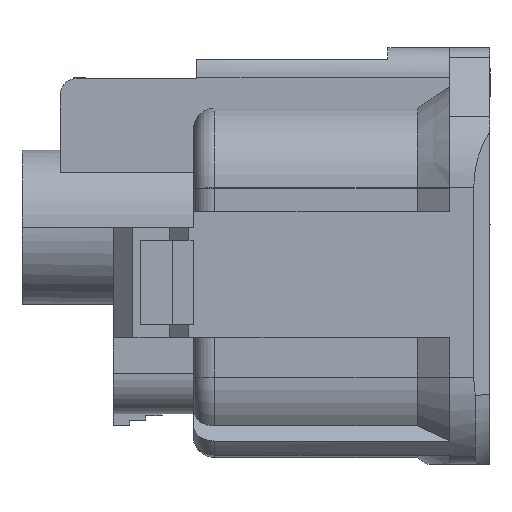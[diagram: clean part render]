
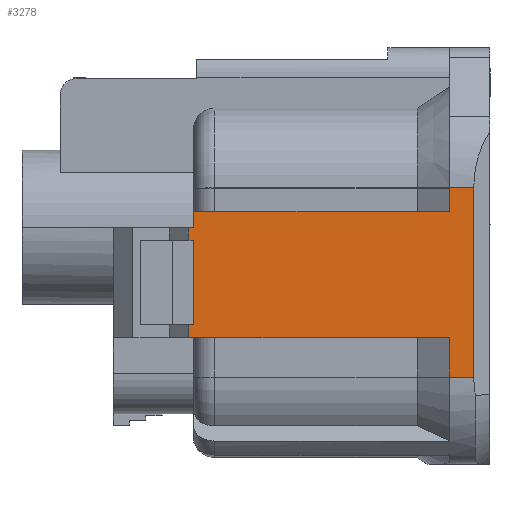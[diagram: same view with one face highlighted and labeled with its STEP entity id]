
A CAD part, front view. The second image highlights one B-rep face of the part: STEP entity #3278.
In plain terms, the highlighted planar face has unit normal (0, -1, 0).
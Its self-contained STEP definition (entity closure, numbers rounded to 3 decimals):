
#3108=AXIS2_PLACEMENT_3D('Circle Axis2P3D',#3106,#3107,$) ;
#3115=AXIS2_PLACEMENT_3D('Circle Axis2P3D',#3113,#3114,$) ;
#3122=AXIS2_PLACEMENT_3D('Circle Axis2P3D',#3120,#3121,$) ;
#3161=AXIS2_PLACEMENT_3D('Plane Axis2P3D',#3158,#3159,#3160) ;
#2400=CARTESIAN_POINT('Vertex',(-2.5,-12.9,13.027)) ;
#2403=CARTESIAN_POINT('Line Origine',(-9.3,-12.9,13.027)) ;
#2407=CARTESIAN_POINT('Vertex',(-1.,-12.9,13.027)) ;
#3016=CARTESIAN_POINT('Vertex',(-1.,-12.9,1.275)) ;
#3019=CARTESIAN_POINT('Line Origine',(-9.3,-12.9,1.275)) ;
#3023=CARTESIAN_POINT('Vertex',(-2.5,-12.9,1.275)) ;
#3103=CARTESIAN_POINT('Vertex',(-2.5,-12.9,12.975)) ;
#3106=CARTESIAN_POINT('Axis2P3D Location',(-2.5,-6.6,12.975)) ;
#3110=CARTESIAN_POINT('Vertex',(-2.5,-12.9,12.99)) ;
#3113=CARTESIAN_POINT('Axis2P3D Location',(-2.5,-6.6,12.975)) ;
#3117=CARTESIAN_POINT('Vertex',(-2.5,-12.9,13.015)) ;
#3120=CARTESIAN_POINT('Axis2P3D Location',(-2.5,-6.6,12.975)) ;
#3158=CARTESIAN_POINT('Axis2P3D Location',(0.,-12.9,15.5)) ;
#3163=CARTESIAN_POINT('Line Origine',(-1.,-12.9,7.151)) ;
#3168=CARTESIAN_POINT('Line Origine',(-2.5,-12.9,12.962)) ;
#3172=CARTESIAN_POINT('Vertex',(-2.5,-12.9,12.95)) ;
#3175=CARTESIAN_POINT('Line Origine',(-2.5,-12.9,12.237)) ;
#3179=CARTESIAN_POINT('Vertex',(-2.5,-12.9,11.525)) ;
#3182=CARTESIAN_POINT('Line Origine',(-10.4,-12.9,11.525)) ;
#3186=CARTESIAN_POINT('Vertex',(-18.3,-12.9,11.525)) ;
#3189=CARTESIAN_POINT('Line Origine',(-18.3,-12.9,11.025)) ;
#3193=CARTESIAN_POINT('Vertex',(-18.3,-12.9,10.525)) ;
#3196=CARTESIAN_POINT('Line Origine',(-18.45,-12.9,10.525)) ;
#3200=CARTESIAN_POINT('Vertex',(-18.6,-12.9,10.525)) ;
#3203=CARTESIAN_POINT('Line Origine',(-18.6,-12.9,10.125)) ;
#3207=CARTESIAN_POINT('Vertex',(-18.6,-12.9,9.725)) ;
#3210=CARTESIAN_POINT('Line Origine',(-18.45,-12.9,9.725)) ;
#3214=CARTESIAN_POINT('Vertex',(-18.3,-12.9,9.725)) ;
#3217=CARTESIAN_POINT('Line Origine',(-18.3,-12.9,7.125)) ;
#3221=CARTESIAN_POINT('Vertex',(-18.3,-12.9,4.525)) ;
#3224=CARTESIAN_POINT('Line Origine',(-18.45,-12.9,4.525)) ;
#3228=CARTESIAN_POINT('Vertex',(-18.6,-12.9,4.525)) ;
#3231=CARTESIAN_POINT('Line Origine',(-18.6,-12.9,4.125)) ;
#3235=CARTESIAN_POINT('Vertex',(-18.6,-12.9,3.725)) ;
#3238=CARTESIAN_POINT('Line Origine',(-10.55,-12.9,3.725)) ;
#3242=CARTESIAN_POINT('Vertex',(-2.5,-12.9,3.725)) ;
#3245=CARTESIAN_POINT('Line Origine',(-2.5,-12.9,2.513)) ;
#3249=CARTESIAN_POINT('Vertex',(-2.5,-12.9,1.3)) ;
#3252=CARTESIAN_POINT('Line Origine',(-2.5,-12.9,1.288)) ;
#2404=DIRECTION('Vector Direction',(-1.,0.,0.)) ;
#3020=DIRECTION('Vector Direction',(-1.,0.,0.)) ;
#3107=DIRECTION('Axis2P3D Direction',(1.,0.,0.)) ;
#3114=DIRECTION('Axis2P3D Direction',(1.,0.,0.)) ;
#3121=DIRECTION('Axis2P3D Direction',(1.,0.,0.)) ;
#3159=DIRECTION('Axis2P3D Direction',(0.,1.,0.)) ;
#3160=DIRECTION('Axis2P3D XDirection',(0.,0.,-1.)) ;
#3164=DIRECTION('Vector Direction',(0.,0.,-1.)) ;
#3169=DIRECTION('Vector Direction',(0.,0.,-1.)) ;
#3176=DIRECTION('Vector Direction',(0.,0.,-1.)) ;
#3183=DIRECTION('Vector Direction',(1.,0.,0.)) ;
#3190=DIRECTION('Vector Direction',(0.,0.,1.)) ;
#3197=DIRECTION('Vector Direction',(1.,0.,0.)) ;
#3204=DIRECTION('Vector Direction',(0.,0.,-1.)) ;
#3211=DIRECTION('Vector Direction',(1.,0.,0.)) ;
#3218=DIRECTION('Vector Direction',(0.,0.,-1.)) ;
#3225=DIRECTION('Vector Direction',(1.,0.,0.)) ;
#3232=DIRECTION('Vector Direction',(0.,0.,-1.)) ;
#3239=DIRECTION('Vector Direction',(-1.,0.,0.)) ;
#3246=DIRECTION('Vector Direction',(0.,0.,1.)) ;
#3253=DIRECTION('Vector Direction',(0.,0.,1.)) ;
#2405=VECTOR('Line Direction',#2404,1.) ;
#3021=VECTOR('Line Direction',#3020,1.) ;
#3165=VECTOR('Line Direction',#3164,1.) ;
#3170=VECTOR('Line Direction',#3169,1.) ;
#3177=VECTOR('Line Direction',#3176,1.) ;
#3184=VECTOR('Line Direction',#3183,1.) ;
#3191=VECTOR('Line Direction',#3190,1.) ;
#3198=VECTOR('Line Direction',#3197,1.) ;
#3205=VECTOR('Line Direction',#3204,1.) ;
#3212=VECTOR('Line Direction',#3211,1.) ;
#3219=VECTOR('Line Direction',#3218,1.) ;
#3226=VECTOR('Line Direction',#3225,1.) ;
#3233=VECTOR('Line Direction',#3232,1.) ;
#3240=VECTOR('Line Direction',#3239,1.) ;
#3247=VECTOR('Line Direction',#3246,1.) ;
#3254=VECTOR('Line Direction',#3253,1.) ;
#3258=ORIENTED_EDGE('',*,*,#3167,.F.) ;
#3259=ORIENTED_EDGE('',*,*,#2409,.T.) ;
#3260=ORIENTED_EDGE('',*,*,#3124,.F.) ;
#3261=ORIENTED_EDGE('',*,*,#3119,.F.) ;
#3262=ORIENTED_EDGE('',*,*,#3112,.F.) ;
#3263=ORIENTED_EDGE('',*,*,#3174,.T.) ;
#3264=ORIENTED_EDGE('',*,*,#3181,.F.) ;
#3265=ORIENTED_EDGE('',*,*,#3188,.F.) ;
#3266=ORIENTED_EDGE('',*,*,#3195,.F.) ;
#3267=ORIENTED_EDGE('',*,*,#3202,.F.) ;
#3268=ORIENTED_EDGE('',*,*,#3209,.F.) ;
#3269=ORIENTED_EDGE('',*,*,#3216,.T.) ;
#3270=ORIENTED_EDGE('',*,*,#3223,.T.) ;
#3271=ORIENTED_EDGE('',*,*,#3230,.F.) ;
#3272=ORIENTED_EDGE('',*,*,#3237,.F.) ;
#3273=ORIENTED_EDGE('',*,*,#3244,.F.) ;
#3274=ORIENTED_EDGE('',*,*,#3251,.F.) ;
#3275=ORIENTED_EDGE('',*,*,#3256,.F.) ;
#3276=ORIENTED_EDGE('',*,*,#3025,.F.) ;
#3278=ADVANCED_FACE('BODY',(#3277),#3162,.F.) ;
#3109=CIRCLE('generated circle',#3108,6.3) ;
#3116=CIRCLE('generated circle',#3115,6.3) ;
#3123=CIRCLE('generated circle',#3122,6.3) ;
#2409=EDGE_CURVE('',#2408,#2401,#2406,.T.) ;
#3025=EDGE_CURVE('',#3017,#3024,#3022,.T.) ;
#3112=EDGE_CURVE('',#3104,#3111,#3109,.F.) ;
#3119=EDGE_CURVE('',#3111,#3118,#3116,.F.) ;
#3124=EDGE_CURVE('',#3118,#2401,#3123,.F.) ;
#3167=EDGE_CURVE('',#2408,#3017,#3166,.T.) ;
#3174=EDGE_CURVE('',#3104,#3173,#3171,.T.) ;
#3181=EDGE_CURVE('',#3180,#3173,#3178,.F.) ;
#3188=EDGE_CURVE('',#3187,#3180,#3185,.T.) ;
#3195=EDGE_CURVE('',#3194,#3187,#3192,.T.) ;
#3202=EDGE_CURVE('',#3201,#3194,#3199,.T.) ;
#3209=EDGE_CURVE('',#3208,#3201,#3206,.F.) ;
#3216=EDGE_CURVE('',#3208,#3215,#3213,.T.) ;
#3223=EDGE_CURVE('',#3215,#3222,#3220,.T.) ;
#3230=EDGE_CURVE('',#3229,#3222,#3227,.T.) ;
#3237=EDGE_CURVE('',#3236,#3229,#3234,.F.) ;
#3244=EDGE_CURVE('',#3243,#3236,#3241,.T.) ;
#3251=EDGE_CURVE('',#3250,#3243,#3248,.T.) ;
#3256=EDGE_CURVE('',#3024,#3250,#3255,.T.) ;
#3257=EDGE_LOOP('',(#3258,#3259,#3260,#3261,#3262,#3263,#3264,#3265,#3266,#3267,#3268,#3269,#3270,#3271,#3272,#3273,#3274,#3275,#3276)) ;
#3277=FACE_OUTER_BOUND('',#3257,.T.) ;
#2406=LINE('Line',#2403,#2405) ;
#3022=LINE('Line',#3019,#3021) ;
#3166=LINE('Line',#3163,#3165) ;
#3171=LINE('Line',#3168,#3170) ;
#3178=LINE('Line',#3175,#3177) ;
#3185=LINE('Line',#3182,#3184) ;
#3192=LINE('Line',#3189,#3191) ;
#3199=LINE('Line',#3196,#3198) ;
#3206=LINE('Line',#3203,#3205) ;
#3213=LINE('Line',#3210,#3212) ;
#3220=LINE('Line',#3217,#3219) ;
#3227=LINE('Line',#3224,#3226) ;
#3234=LINE('Line',#3231,#3233) ;
#3241=LINE('Line',#3238,#3240) ;
#3248=LINE('Line',#3245,#3247) ;
#3255=LINE('Line',#3252,#3254) ;
#3162=PLANE('',#3161) ;
#2401=VERTEX_POINT('',#2400) ;
#2408=VERTEX_POINT('',#2407) ;
#3017=VERTEX_POINT('',#3016) ;
#3024=VERTEX_POINT('',#3023) ;
#3104=VERTEX_POINT('',#3103) ;
#3111=VERTEX_POINT('',#3110) ;
#3118=VERTEX_POINT('',#3117) ;
#3173=VERTEX_POINT('',#3172) ;
#3180=VERTEX_POINT('',#3179) ;
#3187=VERTEX_POINT('',#3186) ;
#3194=VERTEX_POINT('',#3193) ;
#3201=VERTEX_POINT('',#3200) ;
#3208=VERTEX_POINT('',#3207) ;
#3215=VERTEX_POINT('',#3214) ;
#3222=VERTEX_POINT('',#3221) ;
#3229=VERTEX_POINT('',#3228) ;
#3236=VERTEX_POINT('',#3235) ;
#3243=VERTEX_POINT('',#3242) ;
#3250=VERTEX_POINT('',#3249) ;
